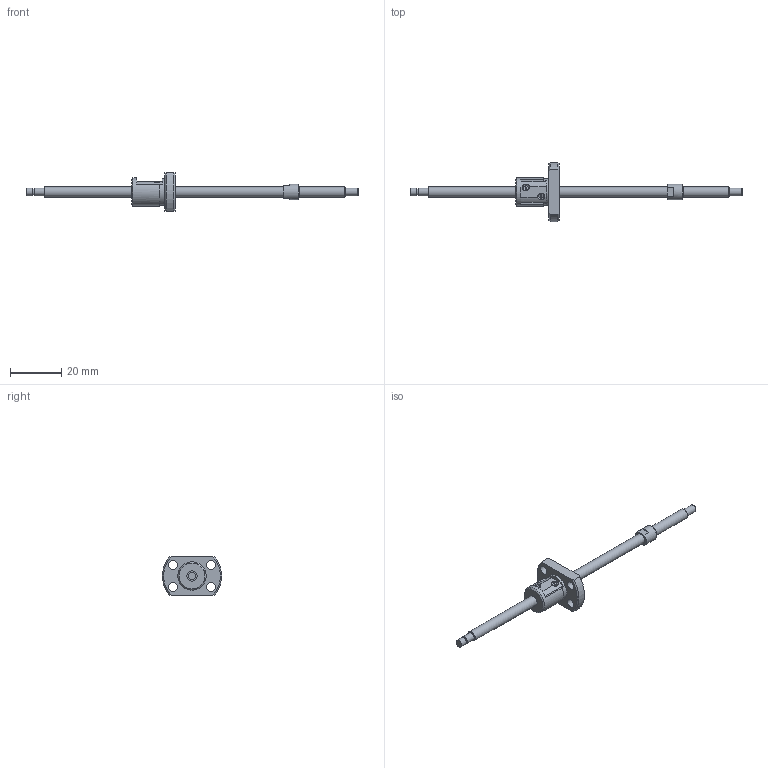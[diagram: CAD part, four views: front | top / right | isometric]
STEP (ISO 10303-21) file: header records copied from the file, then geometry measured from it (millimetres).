
FILE_DESCRIPTION(/* description */ ('STEP AP214'),/* implementation_level */ '2;1');
FILE_NAME(/* name */ 'SRT0401-089R129C7B0X(34Processing)',/* time_stamp */ '2026-08-04T17:45:41+02:00',/* author */ ('License CC BY-ND 4.0'),/* organization */ ('CADENAS'),/* preprocessor_version */ 'ST-DEVELOPER v20',/* originating_system */ 'PARTsolutions',/* authorisation */ ' ');
FILE_SCHEMA (('AUTOMOTIVE_DESIGN {1 0 10303 214 3 1 1}'));
Length unit declared in the file: millimetre
Products named in the file (3): SRT0401-089R129C7B0X(34Processing); SRT0401-89R155BCt7Processing1Shaft; SRT0401Nut
Assembly tree (2 placements, depth 2):
  SRT0401-089R129C7B0X(34Processing)
    SRT0401-89R155BCt7Processing1Shaft
    SRT0401Nut
Bounding box: 129 x 22.93 x 15 mm (x, y, z)
Volume: 3656.8 mm3; surface area: 3317.6 mm2
Topology: 2 solids, 2 shells, 66 faces, 162 edges, 107 vertices
Faces by surface type: plane 33, cylinder 20, cone 12, torus 1
Full cylindrical faces by diameter (mm): 1 x2, 2.7 x1, 3 x3, 3.4 x4, 4 x3, 6 x1, 10.5 x1, 11 x1
Entity records: 1843 total; most frequent: CARTESIAN_POINT 347, DIRECTION 308, ORIENTED_EDGE 248, AXIS2_PLACEMENT_3D 133, EDGE_CURVE 124, EDGE_LOOP 108, FACE_BOUND 108, VERTEX_POINT 94
